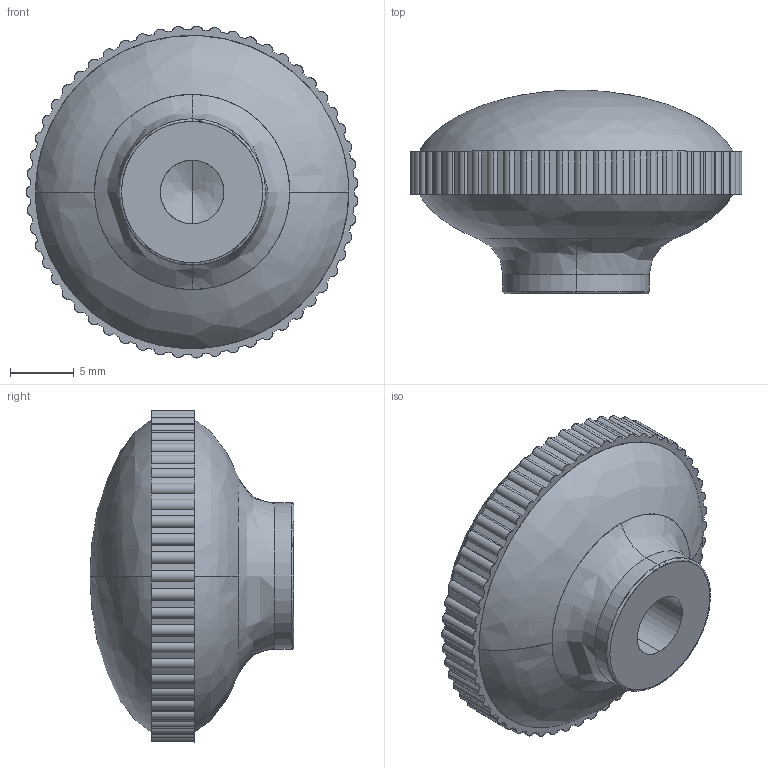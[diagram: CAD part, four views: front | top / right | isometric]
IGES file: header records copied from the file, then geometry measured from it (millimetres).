
Start section: SolidWorks IGES file using analytic representation for surfaces
Global section: file name: C:\Users\Marc\Documents\2 ENGINYERIA\Catalogo 3D\IGS STEP DXF\1113 26 101.IGS; native system: SolidWorks 2010; preprocessor: SolidWorks 2010; author: Marc; date: 101126.111403; units: millimetre
Bounding box: 26.08 x 16 x 26.09 mm (x, y, z)
Surface area: 1883.1 mm2 (no closed solid volume)
Topology: 0 solids, 0 shells, 148 faces, 1702 edges, 1698 vertices
Faces by surface type: revolution 137, bspline 11
